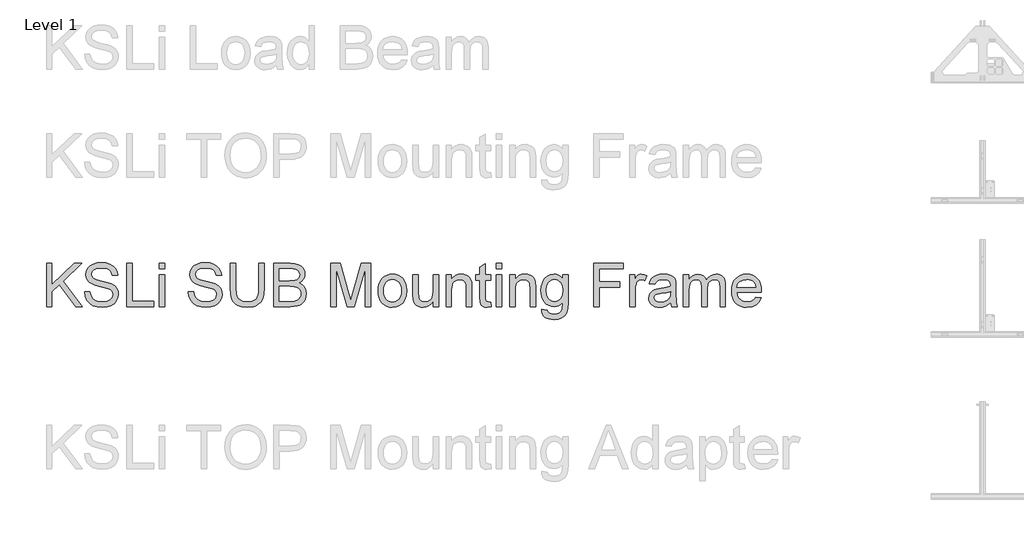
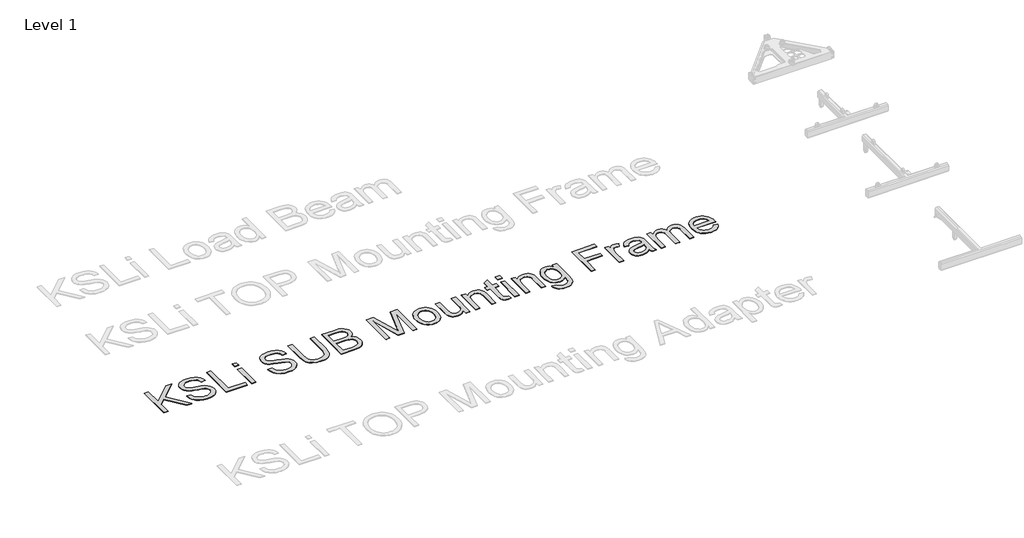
# One storey, part 33 of 52: 1 proxy.
"""IFC4 building model written with IfcOpenShell, lengths in millimetres."""

import ifcopenshell
import ifcopenshell.guid

model = None  # the IFC model being written
_history = None  # IfcOwnerHistory: only IFC2X3 demands one
_inside = {}  # id of a spatial element -> (the spatial element, [elements in it])
_under = {}  # id of a project, library or spatial element -> (it, [spatial elements below it])
_declared = {}  # id of a project -> (the project, [libraries it declares])
_typed = {}  # id of a type object -> (the type object, [elements of that type])
_made_of = {}  # id of a material, layer set ... -> (it, [elements and type objects made of it])


def new_model(schema):
    """Start an empty IFC model of exactly this schema.

    Asked for "IFC4X3", IfcOpenShell would pick the latest addendum, in which some entities
    have other attributes; the version numbers below select the first issue.
    IFC2X3 requires an IfcOwnerHistory on every rooted entity: one is made here for all.
    """
    global model, _history
    if schema == "IFC4X3":
        model = ifcopenshell.file(schema_version=(4, 3, 0, 0))
    else:
        model = ifcopenshell.file(schema=schema)
    _inside.clear()
    _under.clear()
    _declared.clear()
    _typed.clear()
    _made_of.clear()
    _history = None
    if model.schema == "IFC2X3":
        org = make("IfcOrganization", Name="unknown")
        user = make(
            "IfcPersonAndOrganization",
            ThePerson=make("IfcPerson", FamilyName="unknown"),
            TheOrganization=org,
        )
        app = make(
            "IfcApplication",
            ApplicationDeveloper=org,
            Version="unknown",
            ApplicationFullName="unknown",
            ApplicationIdentifier="unknown",
        )
        _history = make(
            "IfcOwnerHistory",
            OwningUser=user,
            OwningApplication=app,
            ChangeAction="ADDED",
            CreationDate=0,
        )
    return model


def make(cls, **values):
    """One entity of the class cls with the attributes given. An attribute that is None is left unset."""
    return model.create_entity(
        cls, **{name: value for name, value in values.items() if value is not None}
    )


def rooted(cls, **values):
    """An entity with a GlobalId (a new one), such as an element, a storey or a relation."""
    return make(cls, GlobalId=ifcopenshell.guid.new(), OwnerHistory=_history, **values)


def si_unit(unit_type, name, prefix=None):
    """IfcSIUnit, for example si_unit("LENGTHUNIT", "METRE", prefix="MILLI")."""
    return make("IfcSIUnit", UnitType=unit_type, Prefix=prefix, Name=name)


def assignment(units):
    """IfcUnitAssignment: the units of a project."""
    return None if units is None else make("IfcUnitAssignment", Units=units)


def point(xyz):
    """IfcCartesianPoint."""
    return None if xyz is None else make("IfcCartesianPoint", Coordinates=xyz)


def direction(xyz):
    """IfcDirection."""
    return None if xyz is None else make("IfcDirection", DirectionRatios=xyz)


def frame(location, z_axis=None, x_axis=None):
    """IfcAxis2Placement3D, a coordinate frame: its origin and axes. An axis left out is left unset."""
    return make(
        "IfcAxis2Placement3D",
        Location=point(location),
        Axis=direction(z_axis),
        RefDirection=direction(x_axis),
    )


def origin():
    """The frame at (0, 0, 0) with its axes left unset."""
    return frame((0.0, 0.0, 0.0))


def origin_with_axes():
    """The frame at (0, 0, 0) with the z axis (0, 0, 1) and the x axis (1, 0, 0) written out."""
    return frame((0.0, 0.0, 0.0), z_axis=(0.0, 0.0, 1.0), x_axis=(1.0, 0.0, 0.0))


def place(relative_to, where):
    """IfcLocalPlacement: puts the frame where relative to a parent placement (None: the world)."""
    return make(
        "IfcLocalPlacement", PlacementRelTo=relative_to, RelativePlacement=where
    )


def context(
    kind, dimensions, precision=None, world=None, true_north=None, identifier=None
):
    """IfcGeometricRepresentationContext, for example the 3D "Model" context."""
    return make(
        "IfcGeometricRepresentationContext",
        ContextIdentifier=identifier,
        ContextType=kind,
        CoordinateSpaceDimension=dimensions,
        Precision=precision,
        WorldCoordinateSystem=world,
        TrueNorth=true_north,
    )


def project(units=None, contexts=None):
    """IfcProject with its units and contexts."""
    return rooted(
        "IfcProject",
        Name="project",
        RepresentationContexts=contexts,
        UnitsInContext=assignment(units),
    )


def spatial(cls, under=None, at=None, **own):
    """A site, building, storey or space (cls), placed at a placement, below another one or the project."""
    s = rooted(cls, ObjectPlacement=at, **own)
    if under is not None:
        _under.setdefault(under.id(), (under, []))[1].append(s)
    return s


def polyline(points):
    """IfcPolyline through the points."""
    return make("IfcPolyline", Points=[point(p) for p in points])


def outline(outer, holes=None, kind="AREA"):
    """IfcArbitraryClosedProfileDef: a profile drawn as a closed curve; with holes, ...WithVoids."""
    if holes is None:
        return make("IfcArbitraryClosedProfileDef", ProfileType=kind, OuterCurve=outer)
    return make(
        "IfcArbitraryProfileDefWithVoids",
        ProfileType=kind,
        OuterCurve=outer,
        InnerCurves=holes,
    )


def extrude(swept, where, along, depth):
    """IfcExtrudedAreaSolid: the profile swept, set in the frame where, extruded along a direction by depth."""
    return make(
        "IfcExtrudedAreaSolid",
        SweptArea=swept,
        Position=where,
        ExtrudedDirection=direction(along),
        Depth=depth,
    )


def shape(context_of_items, identifier, shape_type, items):
    """IfcShapeRepresentation: the items that make up one representation, for example the "Body"."""
    return make(
        "IfcShapeRepresentation",
        ContextOfItems=context_of_items,
        RepresentationIdentifier=identifier,
        RepresentationType=shape_type,
        Items=items,
    )


def made_of(thing, what):
    """Note that an element or type object is made of a material, layer set ...; save() writes the relation."""
    if what is not None:
        _made_of.setdefault(what.id(), (what, []))[1].append(thing)
    return thing


def element(
    cls,
    number,
    at=None,
    inside=None,
    cuts=None,
    type_object=None,
    material=None,
    context=None,
    identifier="Body",
    shape_type=None,
    held_by="IfcProductDefinitionShape",
    body=None,
    shapes=None,
    **own,
):
    """One element of the class cls, such as IfcWall. Its Tag is "e" and its number.

    at: its placement. inside: the storey or other place that contains it. cuts: it is an
    opening in that element (IfcRelVoidsElement). A single representation is given by context,
    identifier, shape_type and body (its items); several are given by shapes. held_by: the class
    of the entity that holds the representations. save() writes the other relations.
    """
    e = rooted(cls, Tag="e%d" % number, ObjectPlacement=at, **own)
    if body is not None:
        shapes = [shape(context, identifier, shape_type, body)]
    if shapes is not None:
        e.Representation = make(held_by, Representations=shapes)
    if inside is not None:
        _inside.setdefault(inside.id(), (inside, []))[1].append(e)
    if cuts is not None:
        rooted(
            "IfcRelVoidsElement", RelatingBuildingElement=cuts, RelatedOpeningElement=e
        )
    if type_object is not None:
        _typed.setdefault(type_object.id(), (type_object, []))[1].append(e)
    return made_of(e, material)


def aggregate(whole, parts):
    """IfcRelAggregates: a whole, such as a stair, and the parts it consists of."""
    return rooted("IfcRelAggregates", RelatingObject=whole, RelatedObjects=parts)


def save(model, path):
    """Write the relations noted so far, then the file.

    IfcRelAggregates (storeys below a building ...), IfcRelContainedInSpatialStructure (elements
    in a storey), IfcRelDefinesByType, IfcRelAssociatesMaterial and IfcRelDeclares: one each for
    every whole, place, type object, material and project.
    """
    for whole, parts in _under.values():
        aggregate(whole, parts)
    for where, things in _inside.values():
        rooted(
            "IfcRelContainedInSpatialStructure",
            RelatedElements=things,
            RelatingStructure=where,
        )
    for kind, things in _typed.values():
        rooted("IfcRelDefinesByType", RelatedObjects=things, RelatingType=kind)
    for what, things in _made_of.values():
        rooted("IfcRelAssociatesMaterial", RelatedObjects=things, RelatingMaterial=what)
    for by, libraries in _declared.values():
        rooted("IfcRelDeclares", RelatingContext=by, RelatedDefinitions=libraries)
    model.write(path)


model = new_model("IFC4")

# Units and contexts
model_context = context("Model", 3, world=origin())
ifc_project = project(units=[si_unit("LENGTHUNIT", "METRE", prefix="MILLI")], contexts=[model_context])

# Site, building, storey
site = spatial("IfcSite", under=ifc_project)
building = spatial("IfcBuilding", under=site)
storey = spatial("IfcBuildingStorey", under=building, Name="Level 1", Elevation=0.0)

# Proxy
placement = place(None, origin())
element("IfcBuildingElementProxy", 1, Name="400mm Arial", ObjectType="400mm Arial", at=placement, inside=storey, context=model_context, shape_type="SweptSolid", body=[
    extrude(outline(polyline([(8048.9284942, -53756.6859046), (8048.9284942, -53354.860664), (8099.1566493, -53354.860664), (8099.1566493, -53551.554904), (8305.1705666, -53354.860664), (8375.4115022, -53354.860664), (8202.4579136, -53520.0642053), (8381.6900216, -53756.6859046), (8320.2782539, -53756.6859046), (8166.8469364, -53554.0074507), (8099.1566493, -53618.5584781), (8099.1566493, -53756.6859046), (8048.9284942, -53756.6859046)])), origin_with_axes(), (0.0, 0.0, 1.0), 5.0),
    extrude(outline(polyline([(8400.5255798, -53618.5584781), (8450.7537348, -53618.5584781), (8456.5172194, -53646.4316706), (8466.9405426, -53668.8356841), (8483.2009268, -53686.6166472), (8506.4755944, -53700.6206885), (8534.9251353, -53709.7073738), (8566.7101397, -53712.7362689), (8594.6936968, -53710.4431378), (8619.1946377, -53703.5637445), (8639.0480027, -53692.6744374), (8653.0888322, -53678.3515651), (8661.4397535, -53661.9072399), (8664.2233939, -53644.6535743), (8662.1387293, -53627.8413671), (8655.8847354, -53613.3100283), (8643.1805438, -53600.9124051), (8621.7452862, -53590.5013446), (8548.6103456, -53571.3224299), (8500.6017452, -53558.6305011), (8469.8835986, -53546.5517089), (8444.8798857, -53529.6536626), (8427.1602362, -53509.1748982), (8416.602023, -53485.5568741), (8413.0826185, -53459.2410487), (8417.4358888, -53429.8227518), (8430.4956996, -53402.3910177), (8451.9186945, -53379.1408756), (8481.3615168, -53362.2673548), (8516.7027138, -53352.0034471), (8555.8208327, -53348.5821446), (8598.2008385, -53352.1628627), (8635.2833436, -53362.9050169), (8665.7439728, -53380.5878782), (8688.2583509, -53404.9907172), (8702.5076469, -53434.592955), (8708.1730296, -53467.8740129), (8657.9448745, -53467.8740129), (8648.7232992, -53437.903893), (8640.3601152, -53426.04583), (8629.4953336, -53416.2724317), (8599.4516373, -53403.1758327), (8557.78287, -53398.8102996), (8515.133084, -53403.1267817), (8498.8297802, -53408.5223843), (8485.8742027, -53416.076228), (8468.9516309, -53435.1325153), (8463.3107736, -53457.7695207), (8467.3084246, -53477.0710628), (8479.3013777, -53492.595683), (8507.6528168, -53506.4770969), (8561.3145371, -53520.6528165), (8616.6930401, -53534.1172975), (8650.1948272, -53545.8649959), (8678.8283091, -53564.0874173), (8698.8043015, -53586.57727), (8710.5397371, -53613.0892991), (8714.451549, -53643.37825), (8709.9511259, -53674.3416513), (8696.4498567, -53703.4656426), (8674.4995643, -53728.5306692), (8644.6520718, -53747.3171764), (8608.7590518, -53759.0526121), (8568.672177, -53762.9644239), (8519.4618288, -53758.7460437), (8478.9580211, -53746.0909031), (8446.6947702, -53724.9499511), (8422.206092, -53695.2741368), (8406.4852681, -53659.1235994), (8400.5255798, -53618.5584781)])), origin_with_axes(), (0.0, 0.0, 1.0), 5.0),
    extrude(outline(polyline([(8789.7937816, -53756.6859046), (8789.7937816, -53354.860664), (8840.0219367, -53354.860664), (8840.0219367, -53706.4577495), (9040.934557, -53706.4577495), (9040.934557, -53756.6859046), (8789.7937816, -53756.6859046)])), origin_with_axes(), (0.0, 0.0, 1.0), 5.0),
    extrude(outline(polyline([(9091.162712, -53405.088819), (9091.162712, -53354.860664), (9141.3908671, -53354.860664), (9141.3908671, -53405.088819), (9091.162712, -53405.088819)])), origin_with_axes(), (0.0, 0.0, 1.0), 5.0),
    extrude(outline(polyline([(9091.162712, -53756.6859046), (9091.162712, -53461.5954935), (9141.3908671, -53461.5954935), (9141.3908671, -53756.6859046), (9091.162712, -53756.6859046)])), origin_with_axes(), (0.0, 0.0, 1.0), 5.0),
    extrude(outline(polyline([(9361.1390456, -53618.5584781), (9411.3672007, -53618.5584781), (9417.1306852, -53646.4316706), (9427.5540084, -53668.8356841), (9443.8143926, -53686.6166472), (9467.0890602, -53700.6206885), (9495.5386011, -53709.7073738), (9527.3236055, -53712.7362689), (9555.3071626, -53710.4431378), (9579.8081035, -53703.5637445), (9599.6614685, -53692.6744374), (9613.702298, -53678.3515651), (9622.0532193, -53661.9072399), (9624.8368597, -53644.6535743), (9622.7521951, -53627.8413671), (9616.4982012, -53613.3100283), (9603.7940096, -53600.9124051), (9582.358752, -53590.5013446), (9509.2238114, -53571.3224299), (9461.215211, -53558.6305011), (9430.4970644, -53546.5517089), (9405.4933515, -53529.6536626), (9387.773702, -53509.1748982), (9377.2154888, -53485.5568741), (9373.6960843, -53459.2410487), (9378.0493546, -53429.8227518), (9391.1091654, -53402.3910177), (9412.5321603, -53379.1408756), (9441.9749826, -53362.2673548), (9477.3161797, -53352.0034471), (9516.4342985, -53348.5821446), (9558.8143043, -53352.1628627), (9595.8968094, -53362.9050169), (9626.3574386, -53380.5878782), (9648.8718167, -53404.9907172), (9663.1211127, -53434.592955), (9668.7864954, -53467.8740129), (9618.5583403, -53467.8740129), (9609.336765, -53437.903893), (9600.973581, -53426.04583), (9590.1087994, -53416.2724317), (9560.0651031, -53403.1758327), (9518.3963358, -53398.8102996), (9475.7465498, -53403.1267817), (9459.4432461, -53408.5223843), (9446.4876685, -53416.076228), (9429.5650967, -53435.1325153), (9423.9242394, -53457.7695207), (9427.9218904, -53477.0710628), (9439.9148435, -53492.595683), (9468.2662826, -53506.4770969), (9521.9280029, -53520.6528165), (9577.3065059, -53534.1172975), (9610.808293, -53545.8649959), (9639.4417749, -53564.0874173), (9659.4177673, -53586.57727), (9671.1532029, -53613.0892991), (9675.0650148, -53643.37825), (9670.5645917, -53674.3416513), (9657.0633225, -53703.4656426), (9635.1130301, -53728.5306692), (9605.2655376, -53747.3171764), (9569.3725176, -53759.0526121), (9529.2856428, -53762.9644239), (9480.0752946, -53758.7460437), (9439.5714869, -53746.0909031), (9407.308236, -53724.9499511), (9382.8195578, -53695.2741368), (9367.0987339, -53659.1235994), (9361.1390456, -53618.5584781)])), origin_with_axes(), (0.0, 0.0, 1.0), 5.0),
    extrude(outline(polyline([(10014.1050615, -53354.860664), (10064.3332166, -53354.860664), (10064.3332166, -53586.6753719), (10060.9241768, -53640.9624916), (10050.6970573, -53682.766149), (10042.5116829, -53699.7193776), (10031.5917191, -53715.0171372), (10001.5480228, -53740.6462496), (9982.4058963, -53750.4104509), (9960.4923921, -53757.3848803), (9908.3512507, -53762.9644239), (9857.3505434, -53758.1083816), (9816.5769556, -53743.5402546), (9800.0222658, -53732.7398524), (9786.0182245, -53719.762815), (9774.5648318, -53704.6091425), (9765.6620875, -53687.2788348), (9754.2209574, -53643.7093438), (9750.4072474, -53586.6753719), (9750.4072474, -53354.860664), (9800.6354025, -53354.860664), (9800.6354025, -53584.9095383), (9803.1124746, -53630.0486591), (9810.5436909, -53661.4780442), (9824.0081719, -53683.2443956), (9844.5850382, -53699.3944152), (9871.4158984, -53709.4008054), (9903.6423611, -53712.7362689), (9931.3254813, -53711.0869313), (9954.7289075, -53706.1389184), (9973.8526399, -53697.8922304), (9988.6966784, -53686.3468671), (9999.812846, -53670.1110084), (10007.7529658, -53647.792834), (10012.5170376, -53619.392344), (10014.1050615, -53584.9095383), (10014.1050615, -53354.860664)])), origin_with_axes(), (0.0, 0.0, 1.0), 5.0),
    extrude(outline(polyline([(10152.232488, -53756.6859046), (10152.232488, -53354.860664), (10305.5657036, -53354.860664), (10347.737243, -53357.8159827), (10380.6626815, -53366.6819387), (10405.8993864, -53381.6792614), (10425.0047247, -53403.0286799), (10437.0344659, -53428.1427574), (10441.0443797, -53454.4340573), (10437.6721281, -53478.6284299), (10427.5553732, -53501.3757999), (10410.6205387, -53521.2782158), (10386.7940481, -53536.9377261), (10415.2558518, -53551.8001587), (10436.2864392, -53574.4126387), (10449.2726736, -53603.2791126), (10453.6014185, -53636.9035269), (10450.6460998, -53664.9238722), (10441.7801437, -53690.9086038), (10428.5486546, -53713.006049), (10412.4967369, -53729.364535), (10392.8395756, -53741.2103353), (10368.7923558, -53749.769723), (10339.5702627, -53754.9568592), (10304.3884812, -53756.6859046), (10152.232488, -53756.6859046)]), holes=[polyline([(10202.4606431, -53706.4577495), (10305.4676017, -53706.4577495), (10342.7463106, -53704.4957122), (10374.2860603, -53693.5573542), (10385.8620804, -53684.1273124), (10395.1817576, -53671.2391798), (10401.3253869, -53655.469305), (10403.3732634, -53637.3940363), (10400.9697677, -53616.4002371), (10393.7592806, -53598.3494938), (10381.1654536, -53584.235088), (10362.6119383, -53575.0503008), (10336.3329011, -53570.0103175), (10300.5625085, -53568.330323), (10202.4606431, -53568.330323), (10202.4606431, -53706.4577495)]), polyline([(10202.4606431, -53518.102168), (10294.1858872, -53518.102168), (10347.7495057, -53513.7856859), (10366.4992247, -53506.3422068), (10379.9759685, -53495.1953824), (10388.1061606, -53480.5168908), (10390.8162246, -53462.4784103), (10388.2901016, -53444.9672273), (10380.7117325, -53429.7123872), (10368.4244738, -53417.8052733), (10351.7716822, -53410.3372688), (10326.2161463, -53406.4009315), (10287.2206548, -53405.088819), (10202.4606431, -53405.088819), (10202.4606431, -53518.102168)])]), origin_with_axes(), (0.0, 0.0, 1.0), 5.0),
    extrude(outline(polyline([(10679.6281163, -53756.6859046), (10679.6281163, -53354.860664), (10766.0558597, -53354.860664), (10848.2652229, -53638.0807493), (10864.8444381, -53697.2361741), (10882.7970795, -53633.175656), (10963.6330166, -53354.860664), (11050.06076, -53354.860664), (11050.06076, -53756.6859046), (10999.8326049, -53756.6859046), (10999.8326049, -53405.088819), (10898.8857854, -53756.6859046), (10830.8030908, -53756.6859046), (10729.8562714, -53405.088819), (10729.8562714, -53756.6859046), (10679.6281163, -53756.6859046)])), origin_with_axes(), (0.0, 0.0, 1.0), 5.0),
    extrude(outline(polyline([(11119.1244732, -53609.140699), (11121.8406686, -53570.9238911), (11129.9892548, -53537.9923212), (11143.5702318, -53510.3459892), (11162.5835996, -53487.9848953), (11181.725726, -53473.6926798), (11202.8544153, -53463.4839544), (11225.9696673, -53457.3587192), (11251.0714821, -53455.3169741), (11278.7821934, -53457.8032433), (11303.838023, -53465.2620507), (11326.2389708, -53477.6933965), (11345.9850369, -53495.0972805), (11362.101334, -53516.8850917), (11373.6129747, -53542.4682188), (11380.5199592, -53571.8466618), (11382.8222873, -53605.0204207), (11378.7510599, -53655.7636105), (11366.5373777, -53694.39122), (11346.5368599, -53723.3190076), (11319.1051258, -53744.9627316), (11286.5230437, -53758.4640009), (11251.0714821, -53762.9644239), (11222.9561006, -53760.4873518), (11197.6672792, -53753.0561355), (11175.2050177, -53740.670775), (11155.5693162, -53723.3312703), (11139.6246974, -53701.331927), (11128.2356839, -53674.9670507), (11121.4022759, -53644.2366414), (11119.1244732, -53609.140699)]), holes=[polyline([(11169.3526283, -53609.0425972), (11170.8057622, -53633.4055823), (11175.1651638, -53654.500549), (11182.4308332, -53672.3274974), (11192.6027704, -53686.8864273), (11204.9758681, -53698.195733), (11218.8450194, -53706.2738085), (11234.210224, -53711.1206538), (11251.0714821, -53712.7362689), (11267.8469011, -53711.1114567), (11283.1507921, -53706.2370203), (11296.9831551, -53698.1129596), (11309.3439902, -53686.7392745), (11319.5159273, -53672.0362575), (11326.7815967, -53653.9242006), (11331.1409984, -53632.4031039), (11332.5941323, -53607.4729673), (11331.1318013, -53583.8825344), (11326.7448085, -53563.3393906), (11319.4331539, -53545.8435361), (11309.1968374, -53531.3949707), (11296.7900171, -53520.085665), (11282.9668511, -53512.0075896), (11267.7273395, -53507.1607443), (11251.0714821, -53505.5451292), (11234.210224, -53507.1546129), (11218.8450194, -53511.9830641), (11204.9758681, -53520.0304827), (11192.6027704, -53531.2968688), (11182.4308332, -53545.8128792), (11175.1651638, -53563.6091708), (11170.8057622, -53584.6857434), (11169.3526283, -53609.0425972)])]), origin_with_axes(), (0.0, 0.0, 1.0), 5.0),
    extrude(outline(polyline([(11627.6845433, -53756.6859046), (11627.6845433, -53705.9672402), (11609.5111728, -53730.9035081), (11588.3456953, -53748.715128), (11564.188111, -53759.4021), (11537.0384197, -53762.9644239), (11512.574267, -53760.4628264), (11489.8023715, -53752.9580337), (11470.6970333, -53741.6763192), (11457.2325522, -53727.8439561), (11448.1703924, -53711.0440117), (11442.2720178, -53690.8595529), (11439.3289618, -53644.163065), (11439.3289618, -53461.5954935), (11489.5571169, -53461.5954935), (11489.5571169, -53620.5205154), (11492.5982747, -53671.7296891), (11499.9191264, -53688.8116764), (11512.4639024, -53701.7979109), (11529.3987369, -53710.0016794), (11549.8897641, -53712.7362689), (11571.5580136, -53709.9403657), (11591.8283115, -53701.5526562), (11608.5424168, -53688.3456926), (11619.5420885, -53671.092027), (11625.6489296, -53647.4617402), (11627.6845433, -53615.1249128), (11627.6845433, -53461.5954935), (11677.9126984, -53461.5954935), (11677.9126984, -53756.6859046), (11627.6845433, -53756.6859046)])), origin_with_axes(), (0.0, 0.0, 1.0), 5.0),
    extrude(outline(polyline([(11746.9764116, -53756.6859046), (11746.9764116, -53461.5954935), (11797.2045667, -53461.5954935), (11797.2045667, -53502.798277), (11814.654436, -53482.025207), (11835.611447, -53467.1872998), (11860.0755997, -53458.2845555), (11888.046894, -53455.3169741), (11912.8053523, -53457.7082071), (11935.479146, -53464.881906), (11954.3882805, -53475.9428913), (11967.8527615, -53489.9959835), (11976.9884977, -53507.0043944), (11982.9113979, -53526.9313358), (11985.5601482, -53575.4917592), (11985.5601482, -53756.6859046), (11935.3319932, -53756.6859046), (11935.3319932, -53582.2607879), (11933.8849906, -53556.2883191), (11929.5439831, -53537.8206429), (11921.5364183, -53524.5891538), (11909.0897442, -53514.3252461), (11893.1359283, -53507.7401584), (11874.6069385, -53505.5451292), (11845.1886416, -53510.4747479), (11820.1113523, -53525.2636041), (11810.0896336, -53537.3362649), (11802.9312631, -53553.8357724), (11798.6362408, -53574.7621266), (11797.2045667, -53600.1153274), (11797.2045667, -53756.6859046), (11746.9764116, -53756.6859046)])), origin_with_axes(), (0.0, 0.0, 1.0), 5.0),
    extrude(outline(polyline([(12161.358691, -53714.796408), (12167.6372104, -53758.1574325), (12130.0641959, -53762.9644239), (12105.9556625, -53760.8797593), (12087.9784957, -53754.6257654), (12075.2743041, -53744.9872571), (12066.9846965, -53732.7490494), (12062.4229598, -53711.7307247), (12060.9023808, -53675.7518656), (12060.9023808, -53511.8236486), (12023.2312645, -53511.8236486), (12023.2312645, -53461.5954935), (12060.9023808, -53461.5954935), (12060.9023808, -53389.8830299), (12111.1305359, -53360.3543684), (12111.1305359, -53461.5954935), (12161.358691, -53461.5954935), (12161.358691, -53511.8236486), (12111.1305359, -53511.8236486), (12111.1305359, -53674.2803376), (12113.7792863, -53700.1792301), (12122.3631995, -53709.3517545), (12139.481975, -53712.7362689), (12161.358691, -53714.796408)])), origin_with_axes(), (0.0, 0.0, 1.0), 5.0),
    extrude(outline(polyline([(12211.5868461, -53756.6859046), (12211.5868461, -53461.5954935), (12261.8150011, -53461.5954935), (12261.8150011, -53756.6859046), (12211.5868461, -53756.6859046)])), origin_with_axes(), (0.0, 0.0, 1.0), 5.0),
    extrude(outline(polyline([(12211.5868461, -53405.088819), (12211.5868461, -53354.860664), (12261.8150011, -53354.860664), (12261.8150011, -53405.088819), (12211.5868461, -53405.088819)])), origin_with_axes(), (0.0, 0.0, 1.0), 5.0),
    extrude(outline(polyline([(12337.1572338, -53756.6859046), (12337.1572338, -53461.5954935), (12387.3853888, -53461.5954935), (12387.3853888, -53502.798277), (12404.8352581, -53482.025207), (12425.7922691, -53467.1872998), (12450.2564218, -53458.2845555), (12478.2277162, -53455.3169741), (12502.9861745, -53457.7082071), (12525.6599681, -53464.881906), (12544.5691026, -53475.9428913), (12558.0335837, -53489.9959835), (12567.1693199, -53507.0043944), (12573.09222, -53526.9313358), (12575.7409704, -53575.4917592), (12575.7409704, -53756.6859046), (12525.5128153, -53756.6859046), (12525.5128153, -53582.2607879), (12524.0658128, -53556.2883191), (12519.7248052, -53537.8206429), (12511.7172405, -53524.5891538), (12499.2705663, -53514.3252461), (12483.3167504, -53507.7401584), (12464.7877606, -53505.5451292), (12435.3694637, -53510.4747479), (12410.2921744, -53525.2636041), (12400.2704557, -53537.3362649), (12393.1120852, -53553.8357724), (12388.8170629, -53574.7621266), (12387.3853888, -53600.1153274), (12387.3853888, -53756.6859046), (12337.1572338, -53756.6859046)])), origin_with_axes(), (0.0, 0.0, 1.0), 5.0),
    extrude(outline(polyline([(12632.2476448, -53781.7999821), (12682.4757999, -53788.0785015), (12688.0185553, -53803.7747999), (12698.7607096, -53814.5660051), (12719.8771361, -53822.9537146), (12747.5173366, -53825.7496178), (12776.9969472, -53822.5858326), (12798.9227141, -53813.0944772), (12814.1285032, -53797.888688), (12823.4481804, -53777.5816019), (12826.8817457, -53719.0147883), (12810.1676404, -53735.4959016), (12791.5160233, -53747.2681255), (12770.9268943, -53754.3314598), (12748.4002534, -53756.6859046), (12720.8612204, -53753.9451837), (12696.6147312, -53745.7230211), (12675.6607859, -53732.0194168), (12657.9993845, -53712.8343707), (12643.9861462, -53689.8172206), (12633.9766902, -53664.6173039), (12627.9710166, -53637.2346207), (12625.9691254, -53607.669171), (12629.5621063, -53567.1163124), (12640.3410487, -53529.8253409), (12657.9258081, -53498.2242775), (12681.9362396, -53474.7411435), (12711.5507402, -53460.1730164), (12745.9477068, -53455.3169741), (12769.4369722, -53458.0638263), (12790.7557338, -53466.304383), (12809.9039917, -53480.0386442), (12826.8817457, -53499.2666098), (12826.8817457, -53461.5954935), (12877.1099008, -53461.5954935), (12877.1099008, -53716.3660379), (12873.6763355, -53775.1903689), (12863.3756397, -53813.928343), (12845.6314648, -53839.618769), (12819.8674624, -53859.3004557), (12786.6477182, -53871.8084436), (12746.536318, -53875.9777729), (12721.9280782, -53874.5093106), (12699.8030419, -53870.1039237), (12680.161209, -53862.7616122), (12663.0025796, -53852.4823761), (12649.1426255, -53839.2539527), (12639.3968183, -53823.0640792), (12633.7651581, -53803.9127557), (12632.2476448, -53781.7999821)]), holes=[polyline([(12676.1972805, -53604.2356058), (12681.5560949, -53650.3066943), (12688.2546129, -53667.9435703), (12697.6325381, -53681.9813341), (12709.0338143, -53692.6897658), (12721.8023852, -53700.3386456), (12735.9382508, -53704.9279735), (12751.4414113, -53706.4577495), (12766.7912875, -53704.9371706), (12780.8597081, -53700.3754338), (12793.6466732, -53692.7725393), (12805.1521826, -53682.1284869), (12814.6588664, -53668.2286788), (12821.4493549, -53650.8585173), (12826.8817457, -53605.7071337), (12821.2899394, -53562.1621682), (12814.3001815, -53544.9606193), (12804.5145204, -53530.8063595), (12792.7606907, -53519.7545712), (12779.8664268, -53511.8604368), (12765.8317286, -53507.1239561), (12750.6565963, -53505.5451292), (12735.7359157, -53507.0994306), (12721.9740634, -53511.7623349), (12697.9268437, -53530.4139521), (12688.4201598, -53544.353614), (12681.6296713, -53561.3037769), (12676.1972805, -53604.2356058)])]), origin_with_axes(), (0.0, 0.0, 1.0), 5.0),
    extrude(outline(polyline([(13115.6936374, -53756.6859046), (13115.6936374, -53354.860664), (13385.6699709, -53354.860664), (13385.6699709, -53405.088819), (13165.9217925, -53405.088819), (13165.9217925, -53524.3806873), (13354.277374, -53524.3806873), (13354.277374, -53574.6088424), (13165.9217925, -53574.6088424), (13165.9217925, -53756.6859046), (13115.6936374, -53756.6859046)])), origin_with_axes(), (0.0, 0.0, 1.0), 5.0),
    extrude(outline(polyline([(13448.4551648, -53756.6859046), (13448.4551648, -53461.5954935), (13492.4048005, -53461.5954935), (13492.4048005, -53505.2508236), (13508.6406592, -53479.9405423), (13523.6011937, -53465.0290588), (13538.6107791, -53457.7449953), (13554.9937906, -53455.3169741), (13580.0097663, -53459.1919978), (13605.4181494, -53470.8170688), (13588.6427304, -53515.845825), (13570.9843946, -53508.1203031), (13553.3260589, -53505.5451292), (13538.3287362, -53508.0222013), (13524.9255689, -53515.4534176), (13514.0975755, -53527.2746924), (13506.8257747, -53542.9219399), (13500.7189336, -53570.9790734), (13498.6833199, -53601.5868554), (13498.6833199, -53756.6859046), (13448.4551648, -53756.6859046)])), origin_with_axes(), (0.0, 0.0, 1.0), 5.0),
    extrude(outline(polyline([(13825.1663278, -53719.0147883), (13801.168159, -53739.5916545), (13776.4587517, -53753.0561355), (13750.4740201, -53760.4873518), (13722.6498785, -53762.9644239), (13700.2857189, -53761.4745019), (13680.6745429, -53757.0047356), (13663.8163504, -53749.5551252), (13649.7111416, -53739.1256707), (13638.5735142, -53726.3785595), (13630.6180661, -53711.9759794), (13625.8447972, -53695.9179303), (13624.2537076, -53678.2044123), (13626.6572033, -53657.3822913), (13633.8676904, -53638.4731568), (13644.9899893, -53622.286349), (13659.1289207, -53609.6312084), (13675.7449241, -53600.0662765), (13694.2984394, -53593.150095), (13737.7575658, -53585.5962513), (13789.1138923, -53577.6500002), (13824.8720223, -53568.330323), (13825.1663278, -53557.1467104), (13821.7082371, -53534.7304341), (13811.3339648, -53520.0642053), (13788.1328737, -53509.1748982), (13755.808309, -53505.5451292), (13725.8872401, -53507.9608876), (13704.9915428, -53515.2081629), (13690.7422468, -53528.6113303), (13680.760382, -53549.4947649), (13630.5322269, -53543.2162455), (13639.2510302, -53515.7477232), (13652.2617901, -53494.1653128), (13670.7785172, -53477.6596739), (13696.0152221, -53465.4214662), (13726.8805215, -53457.8430971), (13762.2830321, -53455.3169741), (13796.2385403, -53457.5487915), (13823.1552396, -53464.2442439), (13843.450063, -53474.3119478), (13857.5399434, -53486.6605201), (13866.8841461, -53501.9276229), (13872.9419363, -53520.7509183), (13875.3944829, -53564.700554), (13875.3944829, -53627.1914423), (13877.9451314, -53714.4530515), (13887.9515217, -53756.6859046), (13837.7233666, -53756.6859046), (13829.6790137, -53739.2237725), (13825.1663278, -53719.0147883)]), holes=[polyline([(13825.1663278, -53618.5584781), (13791.4192862, -53626.9216621), (13744.134187, -53633.960471), (13700.9203153, -53642.1029258), (13689.675389, -53647.6702067), (13681.3489932, -53655.3466776), (13676.1986453, -53664.5437275), (13674.4818626, -53674.6727451), (13678.2219962, -53689.6087541), (13689.4423971, -53701.8469618), (13707.8978105, -53710.0139421), (13733.3429819, -53712.7362689), (13760.3209948, -53709.7318992), (13784.1597481, -53700.7187904), (13803.4858156, -53687.4382503), (13816.9257712, -53671.6315873), (13822.8854595, -53655.3466776), (13824.8720223, -53632.7832486), (13825.1663278, -53618.5584781)])]), origin_with_axes(), (0.0, 0.0, 1.0), 5.0),
    extrude(outline(polyline([(13944.4581962, -53756.6859046), (13944.4581962, -53461.5954935), (13994.6863512, -53461.5954935), (13994.6863512, -53510.1559169), (14009.7940385, -53487.8500052), (14029.2182078, -53470.3756104), (14052.2966717, -53459.0816332), (14078.3672424, -53455.3169741), (14106.3017486, -53459.1552096), (14128.6934993, -53470.669916), (14145.4198674, -53489.100804), (14156.3582254, -53513.687584), (14174.666486, -53488.1504422), (14195.5499206, -53469.9096266), (14219.0085292, -53458.9651372), (14245.0423117, -53455.3169741), (14265.1501284, -53456.8344873), (14282.7992671, -53461.387027), (14297.9897278, -53468.9745932), (14310.7215106, -53479.5971858), (14320.7861488, -53493.3774322), (14327.9751761, -53510.4379597), (14332.2885925, -53530.7787684), (14333.726398, -53554.3998581), (14333.726398, -53756.6859046), (14283.4982429, -53756.6859046), (14283.4982429, -53575.9822685), (14282.3332833, -53550.9295047), (14278.8384043, -53534.0437211), (14272.2901048, -53522.4799637), (14261.9648835, -53513.3932784), (14248.6843434, -53507.5071665), (14233.2700878, -53505.5451292), (14206.0590829, -53510.5728498), (14183.8757986, -53525.6560116), (14175.2704256, -53537.2259003), (14169.1237306, -53551.8246842), (14164.2063746, -53590.1089371), (14164.2063746, -53756.6859046), (14113.9782195, -53756.6859046), (14113.9782195, -53570.3904622), (14111.0719518, -53541.9899722), (14102.3531485, -53521.731937), (14087.0124693, -53509.5918311), (14064.2405738, -53505.5451292), (14044.8899808, -53508.2429305), (14027.0599668, -53516.3363344), (14012.344687, -53529.6291371), (14002.3382967, -53547.925135), (13996.5993376, -53573.3089927), (13994.6863512, -53607.8653748), (13994.6863512, -53756.6859046), (13944.4581962, -53756.6859046)])), origin_with_axes(), (0.0, 0.0, 1.0), 5.0),
    extrude(outline(polyline([(14615.6711591, -53668.7866332), (14664.9182955, -53675.0651526), (14657.3675176, -53694.7897589), (14647.1741206, -53712.1721831), (14634.3381047, -53727.2124254), (14618.8594697, -53739.9104856), (14600.8976313, -53749.9965836), (14580.6120049, -53757.2009394), (14533.0693884, -53762.9644239), (14501.9036521, -53760.4781548), (14474.1346928, -53753.0193473), (14449.7625106, -53740.5880016), (14428.7871055, -53723.1841175), (14411.9197161, -53701.2920731), (14399.8715807, -53675.3962464), (14392.6426995, -53645.4966372), (14390.2330724, -53611.5932457), (14392.667225, -53576.5402229), (14399.9696826, -53545.6442667), (14412.1404453, -53518.905377), (14429.179513, -53496.3235538), (14450.0997358, -53478.3831752), (14473.9139636, -53465.568619), (14500.6221965, -53457.8798853), (14530.2244343, -53455.3169741), (14558.8732447, -53457.873754), (14584.7813342, -53465.5440936), (14607.9487029, -53478.3279929), (14628.3753507, -53496.225452), (14645.0496021, -53518.7582242), (14656.9597817, -53545.4480629), (14664.1058894, -53576.2949682), (14666.4879254, -53611.2989401), (14666.1936198, -53624.8369975), (14440.4612275, -53624.8369975), (14443.370561, -53644.8804349), (14449.1555053, -53662.4345374), (14457.8160606, -53677.4993051), (14469.3522269, -53690.074738), (14483.1263419, -53699.9891577), (14498.5007436, -53707.0708861), (14534.0504071, -53712.7362689), (14560.7831654, -53710.112044), (14583.2975435, -53702.2393693), (14601.5935414, -53688.6277354), (14615.6711591, -53668.7866332)]), holes=[polyline([(14440.4612275, -53574.6088424), (14616.2597703, -53574.6088424), (14609.4662161, -53548.0722878), (14596.1488879, -53529.0895769), (14582.4514149, -53518.788881), (14566.8654811, -53511.4312411), (14549.3910863, -53507.0166572), (14530.0282306, -53505.5451292), (14496.1708243, -53510.241756), (14468.1750045, -53524.3316364), (14448.7140469, -53546.2941915), (14440.4612275, -53574.6088424)])]), origin_with_axes(), (0.0, 0.0, 1.0), 5.0),
])

save(model, "model.ifc")
